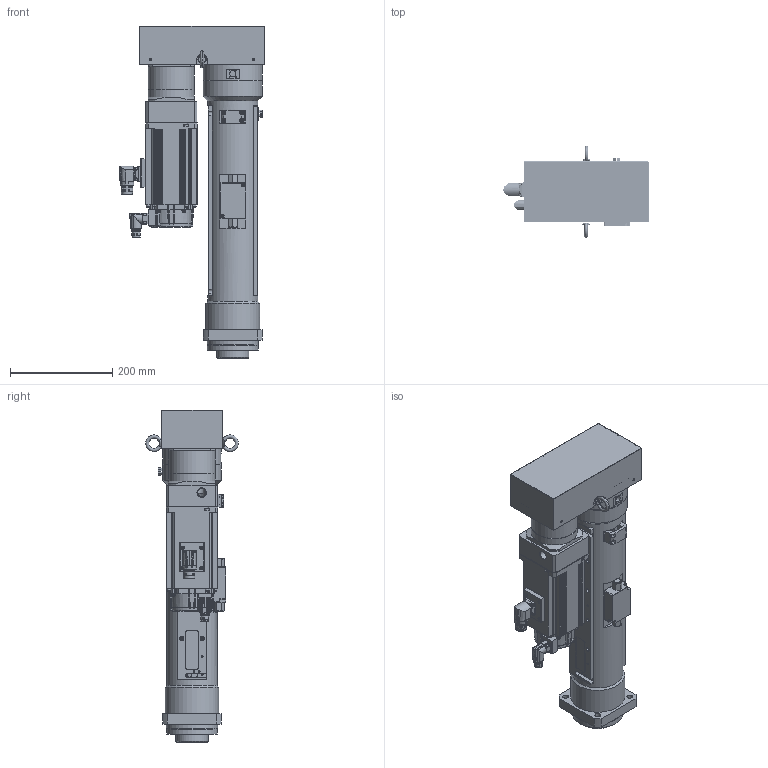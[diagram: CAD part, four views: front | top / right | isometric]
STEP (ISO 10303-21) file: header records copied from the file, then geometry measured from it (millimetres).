
FILE_DESCRIPTION( ('This file contains a STEP AP42 implementation' ,'as created by ZW3D STEP Interface translator.') ,'2;1' );
FILE_NAME( 'OACIS-DC-P020-300-215-A6V400_ASM_20.51.stp' ,'26 415.145827', (''), ('ZWCAD Software Co.'), 'Version 1.0', 'ZW3D to STEP translator', '' );
FILE_SCHEMA(('AUTOMOTIVE_DESIGN { 1 0 10303 214 1 1 1 1 }'));
Length unit declared in the file: millimetre
Products named in the file (1): 0
Bounding box: 283.2 x 180.9 x 648 mm (x, y, z)
Volume: 7083348.7 mm3; surface area: 1278715.6 mm2
Topology: 45 solids, 59 shells, 2351 faces, 6082 edges, 4037 vertices
Faces by surface type: plane 1022, cylinder 910, cone 251, torus 90, bspline 58, sphere 20
Full cylindrical faces by diameter (mm): 1.25 x12, 1.6 x8, 2.232 x6, 2.459 x5, 2.75 x4, 2.8 x1, 3.2 x5, 3.3 x114, 4.2 x4, 4.3 x30, 4.5 x4, 5 x34, 5.5 x9, 6 x8, 6.5 x4, 6.6 x14, 6.647 x5, 6.8 x36, 7 x12, 8 x46, 8.4 x8, 8.5 x17, 9 x4, 11 x12, 12 x1, 13.4 x1, 15 x8, 15.5 x2, 15.54 x1, 16 x1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
Entity records: 81032 total; most frequent: CARTESIAN_POINT 18469, DIRECTION 12944, ORIENTED_EDGE 11873, EDGE_CURVE 5958, AXIS2_PLACEMENT_3D 4918, VERTEX_POINT 3962, VECTOR 3108, LINE 3108
